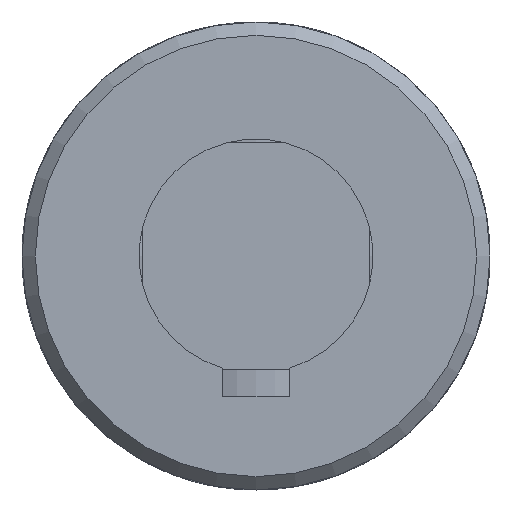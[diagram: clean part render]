
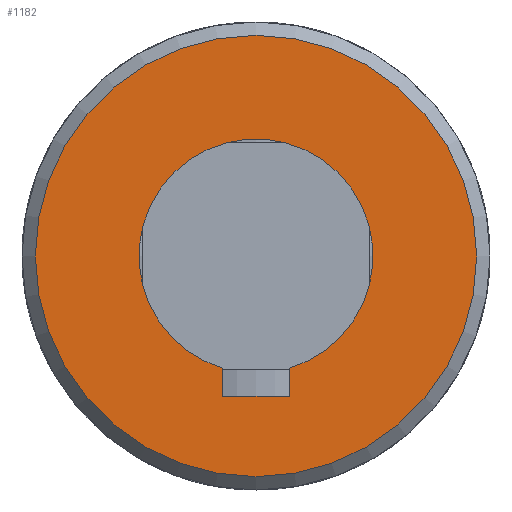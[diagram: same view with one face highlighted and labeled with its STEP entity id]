
A CAD part, front view. The second image highlights one B-rep face of the part: STEP entity #1182.
In plain terms, the highlighted planar face has unit normal (0, -1, 0).
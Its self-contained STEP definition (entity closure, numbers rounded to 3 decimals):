
#133=LINE('',#2157,#178);
#138=LINE('',#2174,#183);
#139=LINE('',#2183,#184);
#178=VECTOR('',#1536,4.229);
#183=VECTOR('',#1547,4.229);
#184=VECTOR('',#1550,10.);
#223=PLANE('',#1301);
#263=FACE_BOUND('',#424,.T.);
#321=FACE_OUTER_BOUND('',#423,.T.);
#423=EDGE_LOOP('',(#999));
#424=EDGE_LOOP('',(#1000,#1001,#1002,#1003));
#488=CIRCLE('',#1289,17.5);
#493=CIRCLE('',#1299,33.);
#578=VERTEX_POINT('',#2146);
#579=VERTEX_POINT('',#2148);
#581=VERTEX_POINT('',#2156);
#587=VERTEX_POINT('',#2172);
#589=VERTEX_POINT('',#2189);
#717=EDGE_CURVE('',#579,#578,#488,.T.);
#720=EDGE_CURVE('',#581,#579,#133,.T.);
#728=EDGE_CURVE('',#578,#587,#138,.T.);
#730=EDGE_CURVE('',#587,#581,#139,.T.);
#733=EDGE_CURVE('',#589,#589,#493,.T.);
#999=ORIENTED_EDGE('',*,*,#733,.F.);
#1000=ORIENTED_EDGE('',*,*,#728,.T.);
#1001=ORIENTED_EDGE('',*,*,#730,.T.);
#1002=ORIENTED_EDGE('',*,*,#720,.T.);
#1003=ORIENTED_EDGE('',*,*,#717,.T.);
#1182=ADVANCED_FACE('',(#321,#263),#223,.F.);
#1289=AXIS2_PLACEMENT_3D('',#2149,#1531,#1532);
#1299=AXIS2_PLACEMENT_3D('',#2190,#1559,#1560);
#1301=AXIS2_PLACEMENT_3D('',#2422,#1567,#1568);
#1531=DIRECTION('center_axis',(0.,1.,0.));
#1532=DIRECTION('ref_axis',(0.286,0.,-0.958));
#1536=DIRECTION('',(0.,0.,1.));
#1547=DIRECTION('',(0.,0.,-1.));
#1550=DIRECTION('',(-1.,0.,0.));
#1559=DIRECTION('center_axis',(0.,1.,0.));
#1560=DIRECTION('ref_axis',(1.,0.,0.));
#1567=DIRECTION('center_axis',(0.,1.,0.));
#1568=DIRECTION('ref_axis',(0.,0.,1.));
#2146=CARTESIAN_POINT('',(5.,-87.,-16.771));
#2148=CARTESIAN_POINT('',(-5.,-87.,-16.771));
#2149=CARTESIAN_POINT('Origin',(0.,-87.,0.));
#2156=CARTESIAN_POINT('',(-5.,-87.,-21.));
#2157=CARTESIAN_POINT('',(-5.,-87.,-10.5));
#2172=CARTESIAN_POINT('',(5.,-87.,-21.));
#2174=CARTESIAN_POINT('',(5.,-87.,-8.385));
#2183=CARTESIAN_POINT('',(2.5,-87.,-21.));
#2189=CARTESIAN_POINT('',(-33.,-87.,0.));
#2190=CARTESIAN_POINT('Origin',(0.,-87.,0.));
#2422=CARTESIAN_POINT('Origin',(0.,-87.,0.));
